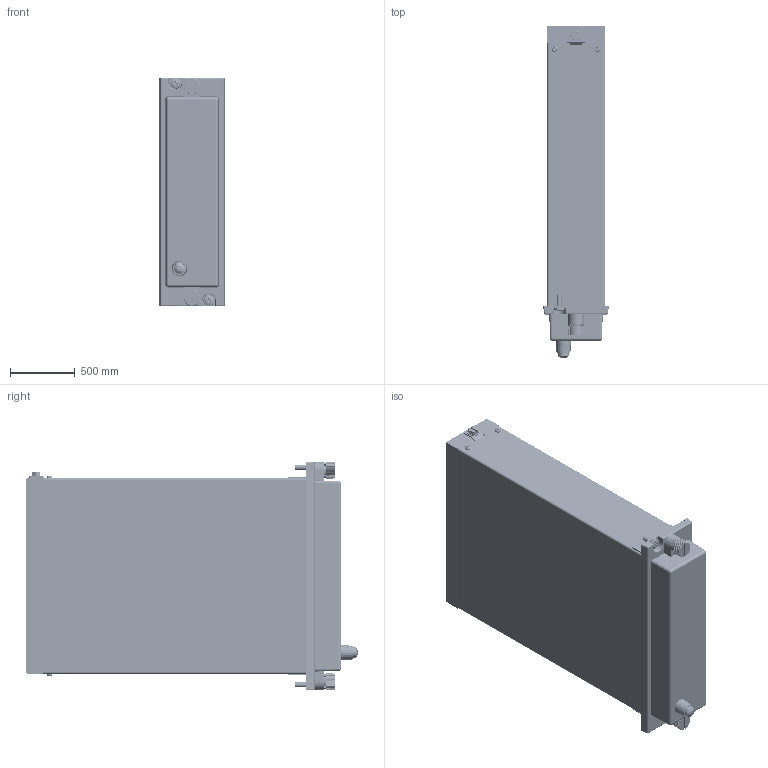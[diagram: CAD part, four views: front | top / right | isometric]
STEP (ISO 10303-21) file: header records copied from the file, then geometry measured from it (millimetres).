
FILE_DESCRIPTION((' '),'2;1');
FILE_NAME('L:\ENG\Projects\Enclosures\407cases\Model\Inventor\2M28-S Assembly Enclosure.stp','2011-09-16T09:30:18',(' '),(' '),' ','ACIS',' ');
FILE_SCHEMA(('CONFIG_CONTROL_DESIGN'));
Length unit declared in the file: millimetre
Products named in the file (114): L:\ENG\Projects\Enclosures\407cases\Model\Inventor\2M28-S Assembly Enclosure.stp; Body1; Body2; Body3; Body4; Body5; Body6; Body7; Body8; Body9; Body10; Body11; Body12; Body13; Body14; Body15; Body16; Body17; Body18; Body19; Body20; Body21; Body22; Body23; Body24; Body25; Body26; Body27; Body28; Body29; Body30; Body31; Body32; Body33; Body34; Body35; Body36; Body37; Body38; Body39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
Assembly tree (114 placements, depth 2):
  L:\ENG\Projects\Enclosures\407cases\Model\Inventor\2M28-S Assembly Enclosure.stp
    Body1
    Body2
    Body3
    Body4
    Body5
    Body6
    Body7
    Body8
    Body9
    Body10
    Body11
    Body12
    Body13
    Body14
    Body15
    Body16
    Body17
    Body18
    Body19
    Body20
    Body21
    Body22
    Body23
    Body24
    Body25
    Body26
    Body27
    Body28
    Body29
    Body30
    Body31
    Body32
    Body33
    Body34
    Body35
    Body36
    Body37
    Body38
    Body39
    Body40
    Body41
    Body42
    Body43
    Body44
    Body45
    Body46
    Body47
    Body48
    Body49
    Body50
    Body51
    Body52
    Body53
    Body54
    Body55
    Body56
    Body57
    Body58
    Body59
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Bounding box: 510 x 2564.64 x 1770 mm (x, y, z)
Volume: 241889589.7 mm3; surface area: 31992924.8 mm2
Topology: 164 solids, 164 shells, 7073 faces, 18017 edges, 11527 vertices
Faces by surface type: plane 3841, cylinder 1328, bspline 1120, cone 283, torus 265, sphere 236
Full cylindrical faces by diameter (mm): 2.94 x4, 4.186 x2, 15 x2, 18.334 x4, 20 x14, 23 x32, 24 x28, 27 x4, 28 x30, 29 x2, 32 x2, 33 x28, 34 x1, 35 x4, 39 x2, 40 x3, 43 x4, 44 x1, 45 x6, 47 x14, 48 x2, 48.5 x28, 53 x1, 54 x2, 60 x61, 62 x28, 65 x14, 66 x28, 80 x28, 83 x3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
Entity records: 252432 total; most frequent: CARTESIAN_POINT 71013, ORIENTED_EDGE 34728, DIRECTION 32171, EDGE_CURVE 17364, VERTEX_POINT 11484, VECTOR 11175, LINE 11175, AXIS2_PLACEMENT_3D 10498
